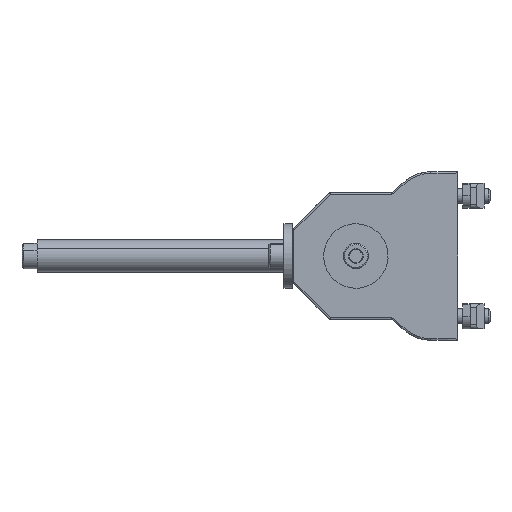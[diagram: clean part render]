
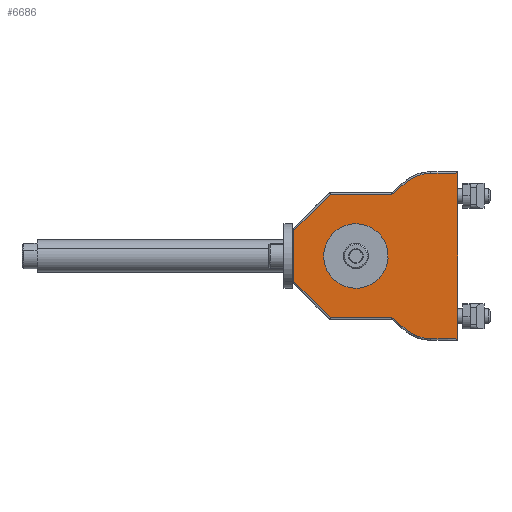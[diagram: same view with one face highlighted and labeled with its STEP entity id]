
A CAD part, front view. The second image highlights one B-rep face of the part: STEP entity #6686.
In plain terms, the highlighted planar face has unit normal (-0.009, -1, 0) as drawn and (0, -1, 0.009) by its records, which use the part's own axes.
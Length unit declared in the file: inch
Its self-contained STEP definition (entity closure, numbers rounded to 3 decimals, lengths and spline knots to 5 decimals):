
#1443=CARTESIAN_POINT('',(1.29,-0.375,-1.57879));
#1449=CARTESIAN_POINT('',(-0.68637,-0.3713,
-1.16928));
#1450=DIRECTION('',(0.,-1.,0.008));
#1451=DIRECTION('',(-0.764,0.005,0.646));
#1452=AXIS2_PLACEMENT_3D('',#1449,#1450,#1451);
#1454=DIRECTION('',(-0.646,-0.007,-0.764));
#1455=VECTOR('',#1454,0.26274);
#1456=CARTESIAN_POINT('',(-0.97492,-0.36629,
-0.5812));
#1457=LINE('',#1456,#1455);
#1458=CARTESIAN_POINT('',(-0.9631,-0.36601,-0.54891));
#1459=CARTESIAN_POINT('',(-0.96311,-0.36605,
-0.55288));
#1460=CARTESIAN_POINT('',(-0.96401,-0.36611,
-0.56057));
#1461=CARTESIAN_POINT('',(-0.96809,-0.36621,
-0.57171));
#1462=CARTESIAN_POINT('',(-0.97237,-0.36627,
-0.57816));
#1463=CARTESIAN_POINT('',(-0.97492,-0.36629,
-0.5812));
#1465=DIRECTION('',(-0.707,-0.006,-0.707));
#1466=VECTOR('',#1465,0.79787);
#1467=CARTESIAN_POINT('',(-0.39893,-0.35282,
0.96332));
#1468=LINE('',#1467,#1466);
#1469=DIRECTION('',(-0.707,0.006,0.707));
#1470=VECTOR('',#1469,0.79787);
#1471=CARTESIAN_POINT('',(0.9631,-0.35774,0.39915));
#1472=LINE('',#1471,#1470);
#1473=CARTESIAN_POINT('',(0.97492,-0.36629,
-0.5812));
#1474=CARTESIAN_POINT('',(0.97237,-0.36627,
-0.57816));
#1475=CARTESIAN_POINT('',(0.96809,-0.36621,
-0.57171));
#1476=CARTESIAN_POINT('',(0.96401,-0.36611,
-0.56057));
#1477=CARTESIAN_POINT('',(0.96311,-0.36605,
-0.55288));
#1478=CARTESIAN_POINT('',(0.9631,-0.36601,-0.54891));
#1480=DIRECTION('',(-0.646,0.007,0.764));
#1481=VECTOR('',#1480,0.26274);
#1482=CARTESIAN_POINT('',(1.14457,-0.36807,
-0.78182));
#1483=LINE('',#1482,#1481);
#1484=CARTESIAN_POINT('',(0.68637,-0.3713,
-1.16928));
#1485=DIRECTION('',(0.,-1.,0.008));
#1486=DIRECTION('',(1.,0.,0.009));
#1487=AXIS2_PLACEMENT_3D('',#1484,#1485,#1486);
#1489=DIRECTION('',(-0.009,0.009,1.));
#1490=VECTOR('',#1489,0.41482);
#1491=CARTESIAN_POINT('',(1.29,-0.375,-1.57879));
#1492=LINE('',#1491,#1490);
#1493=DIRECTION('',(1.,0.,0.));
#1494=VECTOR('',#1493,2.58);
#1495=CARTESIAN_POINT('',(-1.29,-0.375,-1.57879));
#1496=LINE('',#1495,#1494);
#1497=DIRECTION('',(-0.009,-0.009,-1.));
#1498=VECTOR('',#1497,0.41482);
#1499=CARTESIAN_POINT('',(-1.28638,-0.37135,
-1.164));
#1500=LINE('',#1499,#1498);
#1501=CARTESIAN_POINT('',(0.,-0.3654,-0.47829));
#1502=CARTESIAN_POINT('',(-0.06265,-0.3654,
-0.47829));
#1503=CARTESIAN_POINT('',(-0.18788,-0.36518,
-0.45338));
#1504=CARTESIAN_POINT('',(-0.34717,-0.36425,
-0.34695));
#1505=CARTESIAN_POINT('',(-0.4536,-0.36286,
-0.18767));
#1506=CARTESIAN_POINT('',(-0.49097,-0.36122,
0.00022));
#1507=CARTESIAN_POINT('',(-0.4536,-0.35958,
0.1881));
#1508=CARTESIAN_POINT('',(-0.34717,-0.35819,
0.34739));
#1509=CARTESIAN_POINT('',(-0.18788,-0.35726,
0.45382));
#1510=CARTESIAN_POINT('',(-0.06265,-0.35704,
0.47873));
#1511=CARTESIAN_POINT('',(0.,-0.35704,0.47873));
#1513=CARTESIAN_POINT('',(0.,-0.35704,0.47873));
#1514=CARTESIAN_POINT('',(0.06265,-0.35704,
0.47873));
#1515=CARTESIAN_POINT('',(0.18788,-0.35726,
0.45382));
#1516=CARTESIAN_POINT('',(0.34717,-0.35819,
0.34739));
#1517=CARTESIAN_POINT('',(0.4536,-0.35958,
0.1881));
#1518=CARTESIAN_POINT('',(0.49097,-0.36122,
0.00022));
#1519=CARTESIAN_POINT('',(0.4536,-0.36286,
-0.18767));
#1520=CARTESIAN_POINT('',(0.34717,-0.36425,
-0.34695));
#1521=CARTESIAN_POINT('',(0.18788,-0.36518,
-0.45338));
#1522=CARTESIAN_POINT('',(0.06265,-0.3654,
-0.47829));
#1523=CARTESIAN_POINT('',(0.,-0.3654,-0.47829));
#1539=CARTESIAN_POINT('',(-1.29,-0.375,-1.57879));
#1595=DIRECTION('',(0.,0.009,1.));
#1596=VECTOR('',#1595,0.9481);
#1597=CARTESIAN_POINT('',(-0.9631,-0.36601,-0.54891));
#1598=LINE('',#1597,#1596);
#1665=DIRECTION('',(1.,0.,0.));
#1666=VECTOR('',#1665,0.79786);
#1667=CARTESIAN_POINT('',(-0.39893,-0.35282,
0.96332));
#1668=LINE('',#1667,#1666);
#2254=DIRECTION('',(0.,-0.009,-1.));
#2255=VECTOR('',#2254,0.9481);
#2256=CARTESIAN_POINT('',(0.9631,-0.35774,0.39915));
#2257=LINE('',#2256,#2255);
#2594=CARTESIAN_POINT('',(-0.39893,-0.35282,
0.96332));
#2595=CARTESIAN_POINT('',(0.39893,-0.35282,
0.96332));
#2596=VERTEX_POINT('',#2594);
#2597=VERTEX_POINT('',#2595);
#2604=VERTEX_POINT('',#1458);
#2605=VERTEX_POINT('',#1463);
#2664=VERTEX_POINT('',#1501);
#2665=VERTEX_POINT('',#1511);
#2667=CARTESIAN_POINT('',(-0.9631,-0.35774,0.39915));
#2669=VERTEX_POINT('',#2667);
#2679=VERTEX_POINT('',#1539);
#2786=CARTESIAN_POINT('',(-1.14455,-0.36813,
-0.78183));
#2787=CARTESIAN_POINT('',(-1.28639,-0.37129,
-1.164));
#2788=VERTEX_POINT('',#2786);
#2789=VERTEX_POINT('',#2787);
#2884=CARTESIAN_POINT('',(0.97492,-0.36629,
-0.5812));
#2885=VERTEX_POINT('',#2884);
#2893=CARTESIAN_POINT('',(1.14456,-0.36804,
-0.78182));
#2895=VERTEX_POINT('',#2893);
#2898=CARTESIAN_POINT('',(0.9631,-0.35774,0.39915));
#2899=VERTEX_POINT('',#2898);
#2953=VERTEX_POINT('',#1443);
#2977=CARTESIAN_POINT('',(0.9631,-0.36601,-0.54891));
#2978=VERTEX_POINT('',#2977);
#2989=CARTESIAN_POINT('',(1.28639,-0.37129,
-1.164));
#2990=VERTEX_POINT('',#2989);
#6647=CARTESIAN_POINT('',(0.,-0.375,-1.57879));
#6648=DIRECTION('',(0.,-1.,0.009));
#6649=DIRECTION('',(0.,-0.009,-1.));
#6650=AXIS2_PLACEMENT_3D('',#6647,#6648,#6649);
#6651=PLANE('',#6650);
#6653=ORIENTED_EDGE('',*,*,#6652,.F.);
#6655=ORIENTED_EDGE('',*,*,#6654,.F.);
#6657=ORIENTED_EDGE('',*,*,#6656,.F.);
#6659=ORIENTED_EDGE('',*,*,#6658,.T.);
#6661=ORIENTED_EDGE('',*,*,#6660,.F.);
#6663=ORIENTED_EDGE('',*,*,#6662,.T.);
#6665=ORIENTED_EDGE('',*,*,#6664,.F.);
#6667=ORIENTED_EDGE('',*,*,#6666,.T.);
#6669=ORIENTED_EDGE('',*,*,#6668,.F.);
#6671=ORIENTED_EDGE('',*,*,#6670,.F.);
#6673=ORIENTED_EDGE('',*,*,#6672,.F.);
#6674=ORIENTED_EDGE('',*,*,#6639,.F.);
#6675=ORIENTED_EDGE('',*,*,#6530,.F.);
#6677=ORIENTED_EDGE('',*,*,#6676,.F.);
#6678=EDGE_LOOP('',(#6653,#6655,#6657,#6659,#6661,#6663,#6665,#6667,#6669,#6671,
#6673,#6674,#6675,#6677));
#6679=FACE_OUTER_BOUND('',#6678,.F.);
#6681=ORIENTED_EDGE('',*,*,#6680,.F.);
#6683=ORIENTED_EDGE('',*,*,#6682,.F.);
#6684=EDGE_LOOP('',(#6681,#6683));
#6685=FACE_BOUND('',#6684,.F.);
#1453=CIRCLE('',#1452,0.60005);
#1464=B_SPLINE_CURVE_WITH_KNOTS('',3,(#1458,#1459,#1460,#1461,#1462,#1463),
.UNSPECIFIED.,.F.,.F.,(4,1,1,4),(0.,0.33333,0.66667,1.),
.UNSPECIFIED.);
#1479=B_SPLINE_CURVE_WITH_KNOTS('',3,(#1473,#1474,#1475,#1476,#1477,#1478),
.UNSPECIFIED.,.F.,.F.,(4,1,1,4),(0.,0.33333,0.66667,1.),
.UNSPECIFIED.);
#1488=CIRCLE('',#1487,0.60005);
#1512=B_SPLINE_CURVE_WITH_KNOTS('',3,(#1501,#1502,#1503,#1504,#1505,#1506,#1507,
#1508,#1509,#1510,#1511),.UNSPECIFIED.,.F.,.F.,(4,1,1,1,1,1,1,1,4),(0.,
0.125,0.25,0.375,0.5,0.625,0.75,0.875,1.),.UNSPECIFIED.);
#1524=B_SPLINE_CURVE_WITH_KNOTS('',3,(#1513,#1514,#1515,#1516,#1517,#1518,#1519,
#1520,#1521,#1522,#1523),.UNSPECIFIED.,.F.,.F.,(4,1,1,1,1,1,1,1,4),(0.,
0.125,0.25,0.375,0.5,0.625,0.75,0.875,1.),.UNSPECIFIED.);
#6530=EDGE_CURVE('',#2679,#2953,#1496,.T.);
#6639=EDGE_CURVE('',#2953,#2990,#1492,.T.);
#6652=EDGE_CURVE('',#2788,#2789,#1453,.T.);
#6654=EDGE_CURVE('',#2605,#2788,#1457,.T.);
#6656=EDGE_CURVE('',#2604,#2605,#1464,.T.);
#6658=EDGE_CURVE('',#2604,#2669,#1598,.T.);
#6660=EDGE_CURVE('',#2596,#2669,#1468,.T.);
#6662=EDGE_CURVE('',#2596,#2597,#1668,.T.);
#6664=EDGE_CURVE('',#2899,#2597,#1472,.T.);
#6666=EDGE_CURVE('',#2899,#2978,#2257,.T.);
#6668=EDGE_CURVE('',#2885,#2978,#1479,.T.);
#6670=EDGE_CURVE('',#2895,#2885,#1483,.T.);
#6672=EDGE_CURVE('',#2990,#2895,#1488,.T.);
#6676=EDGE_CURVE('',#2789,#2679,#1500,.T.);
#6680=EDGE_CURVE('',#2664,#2665,#1512,.T.);
#6682=EDGE_CURVE('',#2665,#2664,#1524,.T.);
#6686=ADVANCED_FACE('',(#6679,#6685),#6651,.T.);
